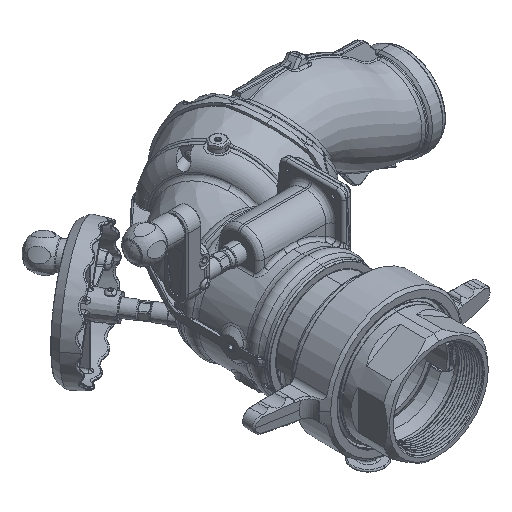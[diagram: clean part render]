
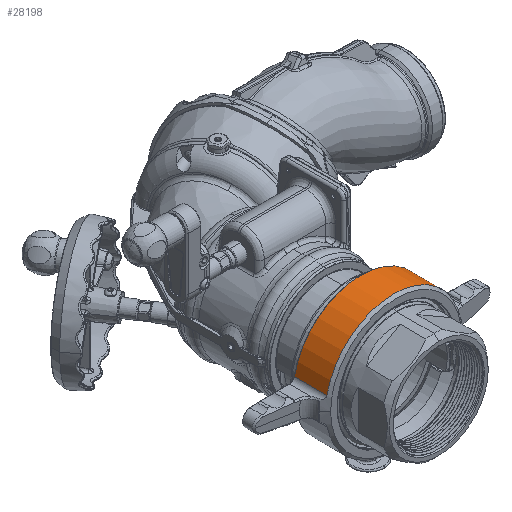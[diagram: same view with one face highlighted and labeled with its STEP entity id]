
A CAD part, isometric view. The second image highlights one B-rep face of the part: STEP entity #28198.
In plain terms, the highlighted cylindrical face has radius 85.725 mm (diameter 171.45 mm), a partial arc.
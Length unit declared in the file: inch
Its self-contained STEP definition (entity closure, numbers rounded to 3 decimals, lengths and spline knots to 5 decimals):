
#3618 = VERTEX_POINT ( 'NONE', #5312 ) ;
#5312 = CARTESIAN_POINT ( 'NONE',  ( -3.30681, -6.3003, 0.675 ) ) ;
#5625 = VERTEX_POINT ( 'NONE', #36143 ) ;
#9775 = CARTESIAN_POINT ( 'NONE',  ( 0., -7.9128, 0. ) ) ;
#20932 = CIRCLE ( 'NONE', #138196, 3.375 ) ;
#27709 = EDGE_CURVE ( 'NONE', #137541, #3618, #20932, .T. ) ;
#28198 = ADVANCED_FACE ( 'NONE', ( #92425 ), #85511, .T. ) ;
#36143 = CARTESIAN_POINT ( 'NONE',  ( -3.30681, -7.9128, 0.675 ) ) ;
#40195 = VECTOR ( 'NONE', #124769, 39.37008 ) ;
#40729 = CIRCLE ( 'NONE', #66799, 3.375 ) ;
#46581 = EDGE_CURVE ( 'NONE', #137541, #72961, #116725, .T. ) ;
#48827 = AXIS2_PLACEMENT_3D ( 'NONE', #105254, #83917, #127645 ) ;
#48905 = CARTESIAN_POINT ( 'NONE',  ( 3.30681, -5.2878, 0.675 ) ) ;
#50859 = DIRECTION ( 'NONE',  ( 0., -1., 0. ) ) ;
#51160 = DIRECTION ( 'NONE',  ( 0., -1., 0. ) ) ;
#51339 = DIRECTION ( 'NONE',  ( -1., 0., 0. ) ) ;
#52321 = ORIENTED_EDGE ( 'NONE', *, *, #57018, .F. ) ;
#57018 = EDGE_CURVE ( 'NONE', #72961, #5625, #40729, .T. ) ;
#65658 = DIRECTION ( 'NONE',  ( -1., 0., 0. ) ) ;
#66799 = AXIS2_PLACEMENT_3D ( 'NONE', #9775, #143817, #65658 ) ;
#71105 = CARTESIAN_POINT ( 'NONE',  ( -3.30681, -5.2878, 0.675 ) ) ;
#72961 = VERTEX_POINT ( 'NONE', #119216 ) ;
#80949 = VECTOR ( 'NONE', #51160, 39.37008 ) ;
#83917 = DIRECTION ( 'NONE',  ( 0., -1., 0. ) ) ;
#85511 = CYLINDRICAL_SURFACE ( 'NONE', #48827, 3.375 ) ;
#92425 = FACE_OUTER_BOUND ( 'NONE', #114850, .T. ) ;
#93196 = ORIENTED_EDGE ( 'NONE', *, *, #46581, .F. ) ;
#99706 = ORIENTED_EDGE ( 'NONE', *, *, #128170, .T. ) ;
#105254 = CARTESIAN_POINT ( 'NONE',  ( 0., -5.2878, 0. ) ) ;
#108610 = CARTESIAN_POINT ( 'NONE',  ( 0., -6.3003, 0. ) ) ;
#114850 = EDGE_LOOP ( 'NONE', ( #93196, #123972, #99706, #52321 ) ) ;
#114940 = CARTESIAN_POINT ( 'NONE',  ( 3.30681, -6.3003, 0.675 ) ) ;
#116725 = LINE ( 'NONE', #48905, #40195 ) ;
#119216 = CARTESIAN_POINT ( 'NONE',  ( 3.30681, -7.9128, 0.675 ) ) ;
#123972 = ORIENTED_EDGE ( 'NONE', *, *, #27709, .T. ) ;
#124769 = DIRECTION ( 'NONE',  ( 0., -1., 0. ) ) ;
#127645 = DIRECTION ( 'NONE',  ( 1., 0., 0. ) ) ;
#128170 = EDGE_CURVE ( 'NONE', #3618, #5625, #143516, .T. ) ;
#137541 = VERTEX_POINT ( 'NONE', #114940 ) ;
#138196 = AXIS2_PLACEMENT_3D ( 'NONE', #108610, #50859, #51339 ) ;
#143516 = LINE ( 'NONE', #71105, #80949 ) ;
#143817 = DIRECTION ( 'NONE',  ( 0., -1., 0. ) ) ;
